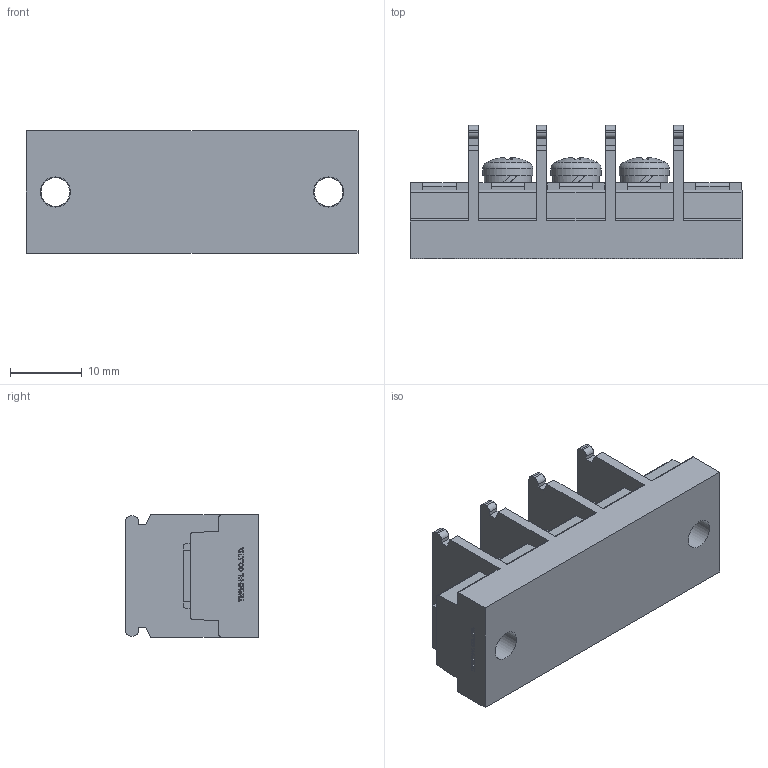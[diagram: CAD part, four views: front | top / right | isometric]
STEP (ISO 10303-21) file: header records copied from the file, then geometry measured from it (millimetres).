
FILE_DESCRIPTION(/* description */ ('Alibre Inc.'),/* implementation_level */ '2;1');
FILE_NAME(/* name */ 'export-9EC73BD0-AAEA-426D-9100-5626D2A2D21C',/* time_stamp */ '2021-02-02T10:27:25+09:00',/* author */ (''),/* organization */ (''),/* preprocessor_version */ 'ST-DEVELOPER v17',/* originating_system */ 'Alibre',/* authorisation */ '');
FILE_SCHEMA (('CONFIG_CONTROL_DESIGN'));
Length unit declared in the file: millimetre
Bounding box: 46.2 x 18.5 x 17 mm (x, y, z)
Volume: 7771.9 mm3; surface area: 5064.3 mm2
Topology: 1 solids, 4 shells, 650 faces, 1769 edges, 1177 vertices
Faces by surface type: plane 460, bspline 104, cylinder 62, cone 15, torus 6, sphere 3
Full cylindrical faces by diameter (mm): 4 x8, 4.2 x2, 6.5 x3, 7 x3
Entity records: 19913 total; most frequent: CARTESIAN_POINT 4576, ORIENTED_EDGE 3466, DIRECTION 2348, EDGE_CURVE 1733, VECTOR 1284, LINE 1284, VERTEX_POINT 1163, AXIS2_PLACEMENT_3D 761
